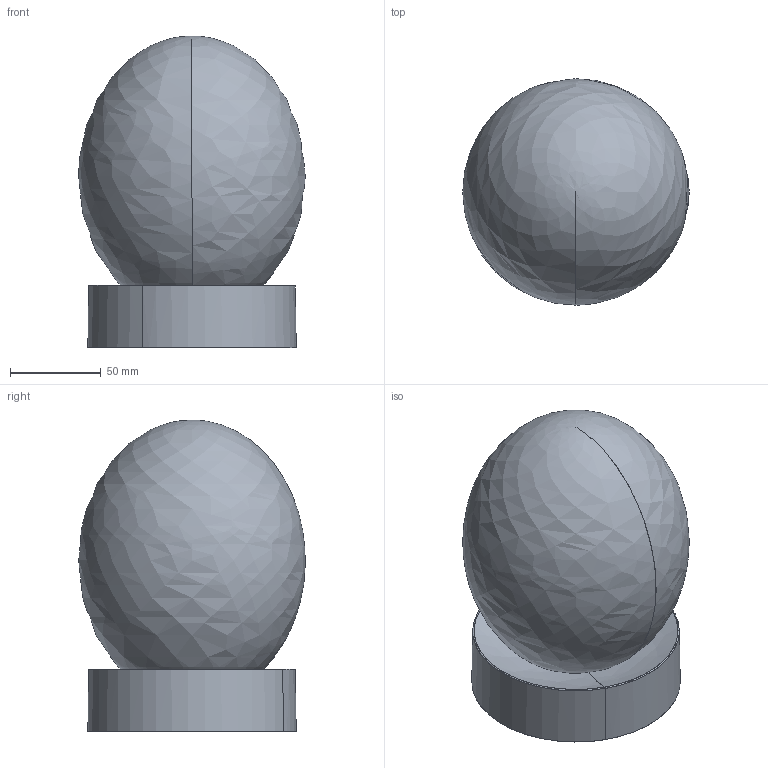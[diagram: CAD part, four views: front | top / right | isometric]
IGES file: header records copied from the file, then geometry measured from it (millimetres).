
Start section: Use this template file for building objects the size of a truck or smaller, and for objects which must be built to manufacturing tolerances. Units: Millimeters Absolute tolerance: .001 mm
Bounding box: 125 x 125 x 172.13 mm (x, y, z)
Surface area: 86509 mm2 (no closed solid volume)
Topology: 0 solids, 0 shells, 8 faces, 36 edges, 35 vertices
Faces by surface type: bspline 8
